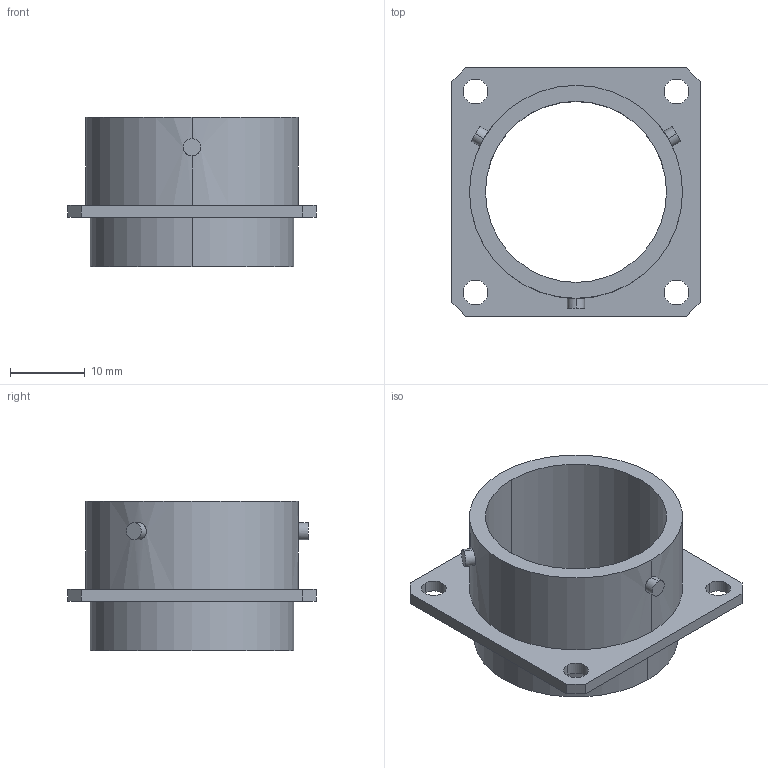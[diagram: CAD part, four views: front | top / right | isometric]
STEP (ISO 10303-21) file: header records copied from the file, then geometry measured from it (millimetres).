
FILE_DESCRIPTION(/* description */ ('VariCAD 2008 3.04 AP-203'),/* implementation_level */ '2;1');
FILE_NAME(/* name */ '0353-19-10',/* time_stamp */ '2009-04-29T13:42:37-06:00',/* author */ (''),/* organization */ (''),/* preprocessor_version */ 'ST-DEVELOPER v12',/* originating_system */ 'VariCAD 2008 3.04; kernel version (20080715)',/* authorisation */ '');
FILE_SCHEMA (('CONFIG_CONTROL_DESIGN'));
Length unit declared in the file: millimetre
Products named in the file (1): Part
Bounding box: 33.3 x 33.3 x 20 mm (x, y, z)
Volume: 3883.5 mm3; surface area: 4662.8 mm2
Topology: 1 solids, 1 shells, 35 faces, 85 edges, 56 vertices
Faces by surface type: cylinder 20, plane 15
Entity records: 1169 total; most frequent: CARTESIAN_POINT 256, DIRECTION 187, ORIENTED_EDGE 170, EDGE_CURVE 85, AXIS2_PLACEMENT_3D 71, VERTEX_POINT 56, EDGE_LOOP 49, LINE 45
